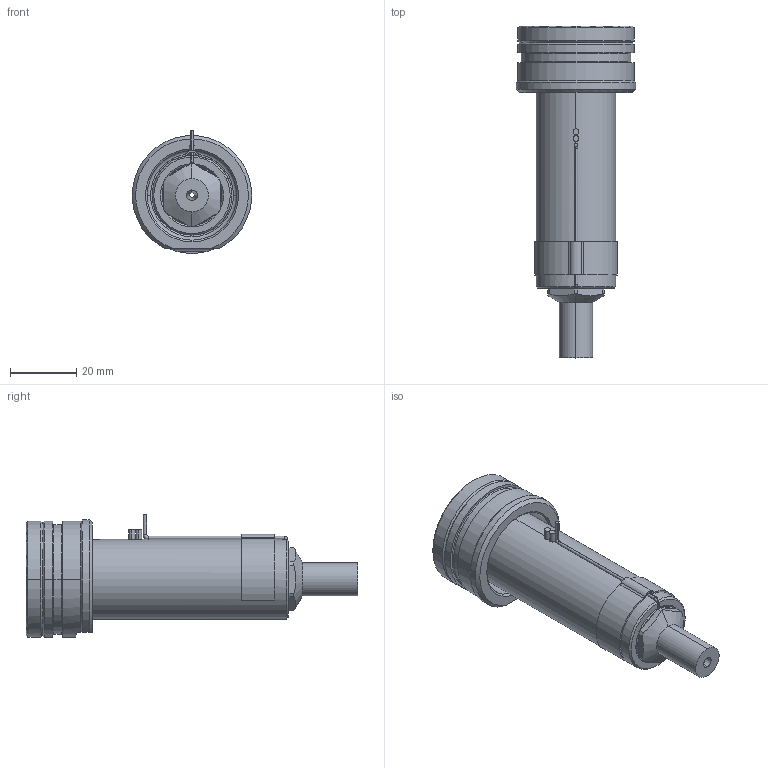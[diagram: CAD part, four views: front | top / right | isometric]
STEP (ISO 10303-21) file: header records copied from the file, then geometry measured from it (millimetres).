
FILE_DESCRIPTION((''),'2;1');
FILE_NAME('EO06_VG-FBE_WR_070_SW','2024-02-19T13:50:56',('sundharh'),(''),'CREO PARAMETRIC BY PTC INC, 2023154','CREO PARAMETRIC BY PTC INC, 2023154','');
FILE_SCHEMA(('CONFIG_CONTROL_DESIGN'));
Length unit declared in the file: millimetre
Products named in the file (1): EO06_VG-FBE_WR_070_SW
Bounding box: 35.93 x 100 x 37 mm (x, y, z)
Volume: 43905.3 mm3; surface area: 14336.4 mm2
Topology: 2 solids, 2 shells, 205 faces, 506 edges, 303 vertices
Faces by surface type: cylinder 76, plane 42, cone 40, torus 29, bspline 16, sphere 2
Entity records: 6951 total; most frequent: CARTESIAN_POINT 2030, DIRECTION 1102, ORIENTED_EDGE 1000, EDGE_CURVE 500, AXIS2_PLACEMENT_3D 466, VERTEX_POINT 303, CIRCLE 277, EDGE_LOOP 219
